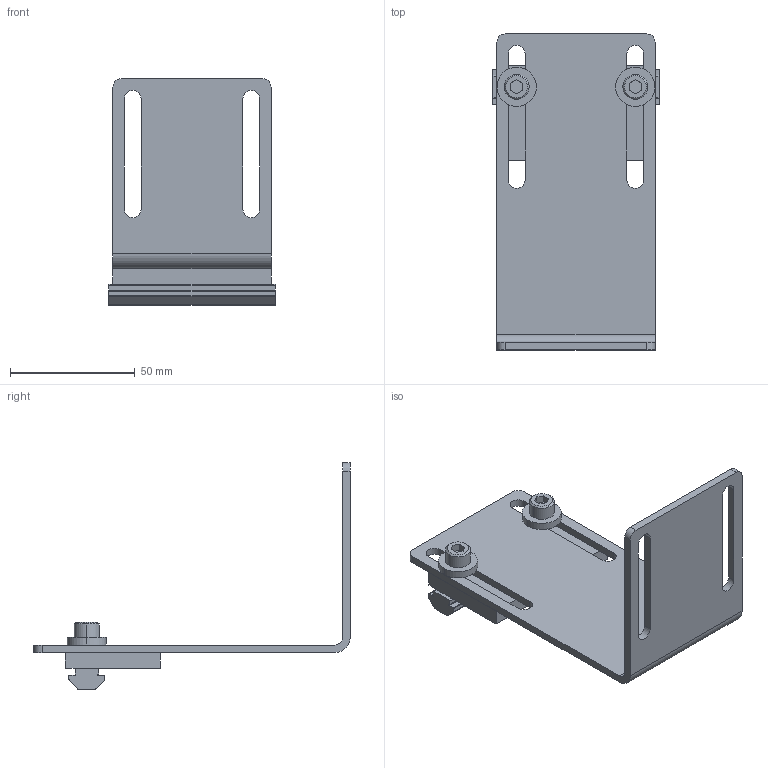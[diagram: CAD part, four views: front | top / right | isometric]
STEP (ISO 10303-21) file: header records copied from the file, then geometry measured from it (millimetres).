
FILE_DESCRIPTION((''),'2;1');
FILE_NAME('20155X_ASM','2016-05-25T',('adam.dellomodarme'),(''),'PRO/ENGINEER BY PARAMETRIC TECHNOLOGY CORPORATION, 2012420','PRO/ENGINEER BY PARAMETRIC TECHNOLOGY CORPORATION, 2012420','');
FILE_SCHEMA(('CONFIG_CONTROL_DESIGN'));
Length unit declared in the file: inch
Products named in the file (3): 201348_1; MOUNTING; 20155X_ASM
Assembly tree (2 placements, depth 2):
  20155X_ASM
    201348_1
    MOUNTING
Bounding box: 66.67 x 127 x 90.88 mm (x, y, z)
Volume: 57496 mm3; surface area: 35635.8 mm2
Topology: 2 solids, 2 shells, 120 faces, 294 edges, 192 vertices
Faces by surface type: plane 64, cylinder 48, cone 8
Entity records: 3656 total; most frequent: DIRECTION 648, CARTESIAN_POINT 611, ORIENTED_EDGE 588, EDGE_CURVE 294, AXIS2_PLACEMENT_3D 229, VERTEX_POINT 192, VECTOR 190, LINE 190
